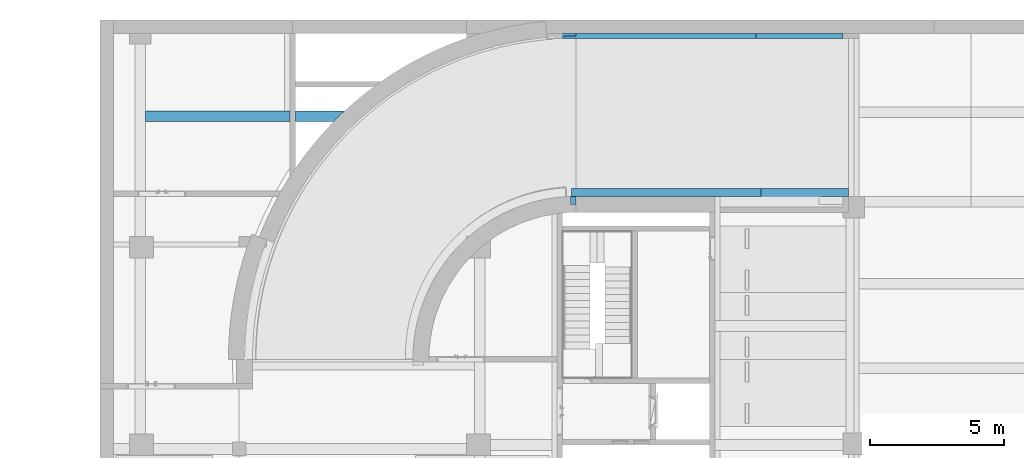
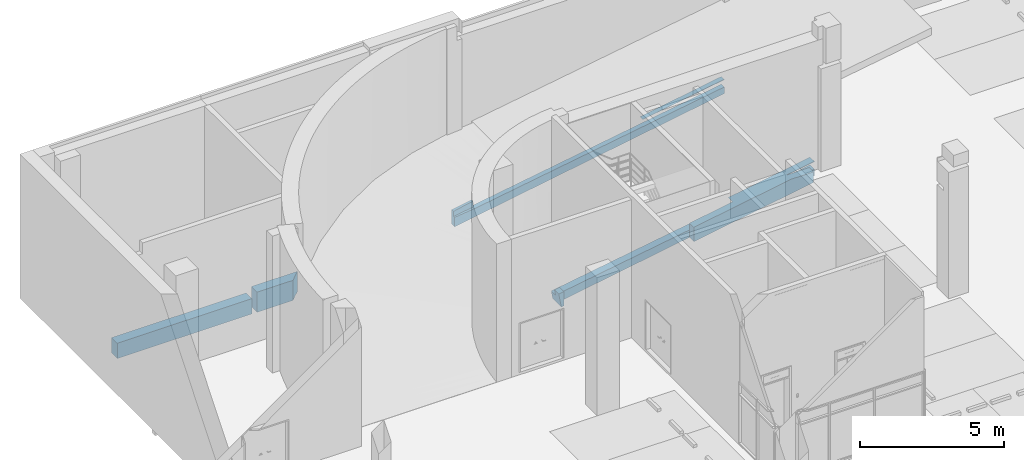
# One storey, part 21 of 29: 3 beams.
"""IFC2X3 building model written with IfcOpenShell, lengths in millimetres."""

import ifcopenshell
import ifcopenshell.guid

model = None  # the IFC model being written
_history = None  # IfcOwnerHistory: only IFC2X3 demands one
_inside = {}  # id of a spatial element -> (the spatial element, [elements in it])
_under = {}  # id of a project, library or spatial element -> (it, [spatial elements below it])
_declared = {}  # id of a project -> (the project, [libraries it declares])
_typed = {}  # id of a type object -> (the type object, [elements of that type])
_made_of = {}  # id of a material, layer set ... -> (it, [elements and type objects made of it])


def new_model(schema):
    """Start an empty IFC model of exactly this schema.

    Asked for "IFC4X3", IfcOpenShell would pick the latest addendum, in which some entities
    have other attributes; the version numbers below select the first issue.
    IFC2X3 requires an IfcOwnerHistory on every rooted entity: one is made here for all.
    """
    global model, _history
    if schema == "IFC4X3":
        model = ifcopenshell.file(schema_version=(4, 3, 0, 0))
    else:
        model = ifcopenshell.file(schema=schema)
    _inside.clear()
    _under.clear()
    _declared.clear()
    _typed.clear()
    _made_of.clear()
    _history = None
    if model.schema == "IFC2X3":
        org = make("IfcOrganization", Name="unknown")
        user = make(
            "IfcPersonAndOrganization",
            ThePerson=make("IfcPerson", FamilyName="unknown"),
            TheOrganization=org,
        )
        app = make(
            "IfcApplication",
            ApplicationDeveloper=org,
            Version="unknown",
            ApplicationFullName="unknown",
            ApplicationIdentifier="unknown",
        )
        _history = make(
            "IfcOwnerHistory",
            OwningUser=user,
            OwningApplication=app,
            ChangeAction="ADDED",
            CreationDate=0,
        )
    return model


def make(cls, **values):
    """One entity of the class cls with the attributes given. An attribute that is None is left unset."""
    return model.create_entity(
        cls, **{name: value for name, value in values.items() if value is not None}
    )


def entity(cls, *values):
    """Any entity or typed value of the class cls, its attributes in the order of the schema. None: left unset."""
    e = model.create_entity(cls)
    for i, value in enumerate(values):
        if value is not None:
            e[i] = value
    return e


def rooted(cls, **values):
    """An entity with a GlobalId (a new one), such as an element, a storey or a relation."""
    return make(cls, GlobalId=ifcopenshell.guid.new(), OwnerHistory=_history, **values)


def si_unit(unit_type, name, prefix=None):
    """IfcSIUnit, for example si_unit("LENGTHUNIT", "METRE", prefix="MILLI")."""
    return make("IfcSIUnit", UnitType=unit_type, Prefix=prefix, Name=name)


def converted_unit(unit_type, name, factor, base, dimensions=None, offset=None):
    """IfcConversionBasedUnit, such as the inch: factor (a typed value) times the base unit."""
    return make(
        "IfcConversionBasedUnit"
        if offset is None
        else "IfcConversionBasedUnitWithOffset",
        ConversionOffset=offset,
        Dimensions=None
        if dimensions is None
        else entity("IfcDimensionalExponents", *dimensions),
        UnitType=unit_type,
        Name=name,
        ConversionFactor=make(
            "IfcMeasureWithUnit", ValueComponent=factor, UnitComponent=base
        ),
    )


def derived_unit(unit_type, elements):
    """IfcDerivedUnit: a product of units, each with its exponent."""
    return make(
        "IfcDerivedUnit",
        Elements=[
            make("IfcDerivedUnitElement", Unit=unit, Exponent=power)
            for unit, power in elements
        ],
        UnitType=unit_type,
    )


def assignment(units):
    """IfcUnitAssignment: the units of a project."""
    return None if units is None else make("IfcUnitAssignment", Units=units)


def point(xyz):
    """IfcCartesianPoint."""
    return None if xyz is None else make("IfcCartesianPoint", Coordinates=xyz)


def direction(xyz):
    """IfcDirection."""
    return None if xyz is None else make("IfcDirection", DirectionRatios=xyz)


def frame(location, z_axis=None, x_axis=None):
    """IfcAxis2Placement3D, a coordinate frame: its origin and axes. An axis left out is left unset."""
    return make(
        "IfcAxis2Placement3D",
        Location=point(location),
        Axis=direction(z_axis),
        RefDirection=direction(x_axis),
    )


def origin():
    """The frame at (0, 0, 0) with its axes left unset."""
    return frame((0.0, 0.0, 0.0))


def place(relative_to, where):
    """IfcLocalPlacement: puts the frame where relative to a parent placement (None: the world)."""
    return make(
        "IfcLocalPlacement", PlacementRelTo=relative_to, RelativePlacement=where
    )


def context(
    kind, dimensions, precision=None, world=None, true_north=None, identifier=None
):
    """IfcGeometricRepresentationContext, for example the 3D "Model" context."""
    return make(
        "IfcGeometricRepresentationContext",
        ContextIdentifier=identifier,
        ContextType=kind,
        CoordinateSpaceDimension=dimensions,
        Precision=precision,
        WorldCoordinateSystem=world,
        TrueNorth=true_north,
    )


def subcontext(parent, identifier, kind, view, scale=None):
    """IfcGeometricRepresentationSubContext, for example "Body" below "Model"."""
    return make(
        "IfcGeometricRepresentationSubContext",
        ContextIdentifier=identifier,
        ContextType=kind,
        ParentContext=parent,
        TargetScale=scale,
        TargetView=view,
    )


def project(units=None, contexts=None):
    """IfcProject with its units and contexts."""
    return rooted(
        "IfcProject",
        Name="project",
        RepresentationContexts=contexts,
        UnitsInContext=assignment(units),
    )


def spatial(cls, under=None, at=None, **own):
    """A site, building, storey or space (cls), placed at a placement, below another one or the project."""
    s = rooted(cls, ObjectPlacement=at, **own)
    if under is not None:
        _under.setdefault(under.id(), (under, []))[1].append(s)
    return s


def faces_of(points, faces, orient=None, outer=None):
    """IfcFace entities. A face is a list of loops; a loop is a list of indices into points, from 0.

    orient and outer hold one flag for each loop. By default every Orientation is true, the
    first loop of a face is its IfcFaceOuterBound and the others are IfcFaceBound.
    """
    made = []
    for i, loops in enumerate(faces):
        bounds = []
        for j, loop in enumerate(loops):
            is_outer = j == 0 if outer is None else outer[i][j]
            bounds.append(
                make(
                    "IfcFaceOuterBound" if is_outer else "IfcFaceBound",
                    Bound=make("IfcPolyLoop", Polygon=[points[k] for k in loop]),
                    Orientation=True if orient is None else orient[i][j],
                )
            )
        made.append(make("IfcFace", Bounds=bounds))
    return made


def faceted_brep(points, faces, orient=None, outer=None, voids=None):
    """IfcFacetedBrep: a solid bounded by flat faces; with voids (closed shells), ...WithVoids."""
    shared = [point(p) for p in points]
    hull = make("IfcClosedShell", CfsFaces=faces_of(shared, faces, orient, outer))
    if voids is None:
        return make("IfcFacetedBrep", Outer=hull)
    return make(
        "IfcFacetedBrepWithVoids",
        Outer=hull,
        Voids=[
            make(cls, CfsFaces=faces_of(shared, fs, o, b)) for cls, fs, o, b in voids
        ],
    )


def shape(context_of_items, identifier, shape_type, items):
    """IfcShapeRepresentation: the items that make up one representation, for example the "Body"."""
    return make(
        "IfcShapeRepresentation",
        ContextOfItems=context_of_items,
        RepresentationIdentifier=identifier,
        RepresentationType=shape_type,
        Items=items,
    )


def source(mapping_origin, context_of_items, identifier, shape_type, items):
    """IfcRepresentationMap: a shape defined once, which mapped items show again and again."""
    return make(
        "IfcRepresentationMap",
        MappingOrigin=mapping_origin,
        MappedRepresentation=shape(context_of_items, identifier, shape_type, items),
    )


def transform(
    local_origin,
    x_axis=None,
    y_axis=None,
    z_axis=None,
    scale=None,
    scale2=None,
    scale3=None,
    uniform=True,
):
    """IfcCartesianTransformationOperator3D, or its non-uniform kind. x_axis, y_axis, z_axis: its Axis1, 2, 3."""
    if uniform:
        return make(
            "IfcCartesianTransformationOperator3D",
            Axis1=direction(x_axis),
            Axis2=direction(y_axis),
            LocalOrigin=point(local_origin),
            Scale=scale,
            Axis3=direction(z_axis),
        )
    return make(
        "IfcCartesianTransformationOperator3DnonUniform",
        Axis1=direction(x_axis),
        Axis2=direction(y_axis),
        LocalOrigin=point(local_origin),
        Scale=scale,
        Axis3=direction(z_axis),
        Scale2=scale2,
        Scale3=scale3,
    )


def mapped(mapping_source, mapping_target):
    """IfcMappedItem: shows the shape of a source again, moved by a transform."""
    return make(
        "IfcMappedItem", MappingSource=mapping_source, MappingTarget=mapping_target
    )


def material(Name=None, Category=None):
    """IfcMaterial."""
    return make("IfcMaterial", Name=Name, Category=Category)


def material_list(materials):
    """IfcMaterialList."""
    return make("IfcMaterialList", Materials=materials)


def made_of(thing, what):
    """Note that an element or type object is made of a material, layer set ...; save() writes the relation."""
    if what is not None:
        _made_of.setdefault(what.id(), (what, []))[1].append(thing)
    return thing


def type_object(cls, material=None, **own):
    """A type object (cls), such as IfcWallType, which elements share."""
    return made_of(rooted(cls, **own), material)


def type_shapes(of_type, sources):
    """Give a type object the sources (RepresentationMaps) that its elements show as mapped items."""
    of_type.RepresentationMaps = sources


def element(
    cls,
    number,
    at=None,
    inside=None,
    cuts=None,
    type_object=None,
    material=None,
    context=None,
    identifier="Body",
    shape_type=None,
    held_by="IfcProductDefinitionShape",
    body=None,
    shapes=None,
    **own,
):
    """One element of the class cls, such as IfcWall. Its Tag is "e" and its number.

    at: its placement. inside: the storey or other place that contains it. cuts: it is an
    opening in that element (IfcRelVoidsElement). A single representation is given by context,
    identifier, shape_type and body (its items); several are given by shapes. held_by: the class
    of the entity that holds the representations. save() writes the other relations.
    """
    e = rooted(cls, Tag="e%d" % number, ObjectPlacement=at, **own)
    if body is not None:
        shapes = [shape(context, identifier, shape_type, body)]
    if shapes is not None:
        e.Representation = make(held_by, Representations=shapes)
    if inside is not None:
        _inside.setdefault(inside.id(), (inside, []))[1].append(e)
    if cuts is not None:
        rooted(
            "IfcRelVoidsElement", RelatingBuildingElement=cuts, RelatedOpeningElement=e
        )
    if type_object is not None:
        _typed.setdefault(type_object.id(), (type_object, []))[1].append(e)
    return made_of(e, material)


def aggregate(whole, parts):
    """IfcRelAggregates: a whole, such as a stair, and the parts it consists of."""
    return rooted("IfcRelAggregates", RelatingObject=whole, RelatedObjects=parts)


def save(model, path):
    """Write the relations noted so far, then the file.

    IfcRelAggregates (storeys below a building ...), IfcRelContainedInSpatialStructure (elements
    in a storey), IfcRelDefinesByType, IfcRelAssociatesMaterial and IfcRelDeclares: one each for
    every whole, place, type object, material and project.
    """
    for whole, parts in _under.values():
        aggregate(whole, parts)
    for where, things in _inside.values():
        rooted(
            "IfcRelContainedInSpatialStructure",
            RelatedElements=things,
            RelatingStructure=where,
        )
    for kind, things in _typed.values():
        rooted("IfcRelDefinesByType", RelatedObjects=things, RelatingType=kind)
    for what, things in _made_of.values():
        rooted("IfcRelAssociatesMaterial", RelatedObjects=things, RelatingMaterial=what)
    for by, libraries in _declared.values():
        rooted("IfcRelDeclares", RelatingContext=by, RelatedDefinitions=libraries)
    model.write(path)


model = new_model("IFC2X3")

# Units and contexts
model_context = context("Model", 3, precision=0.01, world=origin(), true_north=direction((6.123031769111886e-17, 1.0)))
body_context = subcontext(model_context, "Body", "Model", "MODEL_VIEW")
ifc_project = project(units=[si_unit("LENGTHUNIT", "METRE", prefix="MILLI"), si_unit("AREAUNIT", "SQUARE_METRE"), si_unit("VOLUMEUNIT", "CUBIC_METRE"), converted_unit("PLANEANGLEUNIT", "DEGREE", entity("IfcRatioMeasure", 0.017453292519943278), si_unit("PLANEANGLEUNIT", "RADIAN"), dimensions=[0, 0, 0, 0, 0, 0, 0]), si_unit("MASSUNIT", "GRAM", prefix="KILO"), derived_unit("MASSDENSITYUNIT", [(si_unit("MASSUNIT", "GRAM", prefix="KILO"), 1), (si_unit("LENGTHUNIT", "METRE"), -3)]), derived_unit("MOMENTOFINERTIAUNIT", [(si_unit("LENGTHUNIT", "METRE"), 4)]), si_unit("TIMEUNIT", "SECOND"), si_unit("FREQUENCYUNIT", "HERTZ"), si_unit("THERMODYNAMICTEMPERATUREUNIT", "DEGREE_CELSIUS"), derived_unit("THERMALTRANSMITTANCEUNIT", [(si_unit("MASSUNIT", "GRAM", prefix="KILO"), 1), (si_unit("THERMODYNAMICTEMPERATUREUNIT", "KELVIN"), -1), (si_unit("TIMEUNIT", "SECOND"), -3)]), derived_unit("VOLUMETRICFLOWRATEUNIT", [(si_unit("LENGTHUNIT", "METRE"), 3), (si_unit("TIMEUNIT", "SECOND"), -1)]), derived_unit("MASSFLOWRATEUNIT", [(si_unit("MASSUNIT", "GRAM", prefix="KILO"), 1), (si_unit("TIMEUNIT", "SECOND"), -1)]), derived_unit("ROTATIONALFREQUENCYUNIT", [(si_unit("TIMEUNIT", "SECOND"), -1)]), si_unit("ELECTRICCURRENTUNIT", "AMPERE"), si_unit("ELECTRICVOLTAGEUNIT", "VOLT"), si_unit("POWERUNIT", "WATT"), si_unit("FORCEUNIT", "NEWTON", prefix="KILO"), si_unit("ILLUMINANCEUNIT", "LUX"), si_unit("LUMINOUSFLUXUNIT", "LUMEN"), si_unit("LUMINOUSINTENSITYUNIT", "CANDELA"), derived_unit("USERDEFINED", [(si_unit("MASSUNIT", "GRAM", prefix="KILO"), -1), (si_unit("LENGTHUNIT", "METRE"), -2), (si_unit("TIMEUNIT", "SECOND"), 3), (si_unit("LUMINOUSFLUXUNIT", "LUMEN"), 1)]), derived_unit("SOUNDPOWERUNIT", [(si_unit("MASSUNIT", "GRAM", prefix="KILO"), 1), (si_unit("LENGTHUNIT", "METRE"), 2), (si_unit("TIMEUNIT", "SECOND"), -3)]), derived_unit("SOUNDPRESSUREUNIT", [(si_unit("MASSUNIT", "GRAM", prefix="KILO"), 1), (si_unit("LENGTHUNIT", "METRE"), -1), (si_unit("TIMEUNIT", "SECOND"), -2)]), derived_unit("LINEARVELOCITYUNIT", [(si_unit("LENGTHUNIT", "METRE"), 1), (si_unit("TIMEUNIT", "SECOND"), -1)]), si_unit("PRESSUREUNIT", "PASCAL"), derived_unit("USERDEFINED", [(si_unit("LENGTHUNIT", "METRE"), -2), (si_unit("MASSUNIT", "GRAM", prefix="KILO"), 1), (si_unit("TIMEUNIT", "SECOND"), -2)]), derived_unit("LINEARFORCEUNIT", [(si_unit("MASSUNIT", "GRAM", prefix="KILO"), 1), (si_unit("LENGTHUNIT", "METRE"), 1), (si_unit("TIMEUNIT", "SECOND"), -2), (si_unit("LENGTHUNIT", "METRE"), -1)]), derived_unit("PLANARFORCEUNIT", [(si_unit("MASSUNIT", "GRAM", prefix="KILO"), 1), (si_unit("LENGTHUNIT", "METRE"), 1), (si_unit("TIMEUNIT", "SECOND"), -2), (si_unit("LENGTHUNIT", "METRE"), -2)])], contexts=[model_context])

# Site, building, storey
site_placement = place(None, frame((-14167.972527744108, -657.2125860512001, 0.0)))
site = spatial("IfcSite", under=ifc_project, at=site_placement, Name="Default", CompositionType="ELEMENT")
building_placement = place(site_placement, origin())
building = spatial("IfcBuilding", under=site, at=building_placement, Name="Sample Building", CompositionType="ELEMENT")
storey_placement = place(building_placement, frame((0.0, 0.0, -6100.0)))
storey = spatial("IfcBuildingStorey", under=building, at=storey_placement, Name="지하1층", CompositionType="ELEMENT", Elevation=-6099.999999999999)

# Beams
ifc_material = material(Name="KBIMS-콘크리트")
ifc_material_list_1 = material_list([ifc_material, ifc_material])
ifc_material_list_2 = material_list([ifc_material, ifc_material])
beam_type_1 = type_object("IfcBeamType", Name="BM111-철근콘크리트구조 보:BM110-철근 콘크리트구조 보_400 x 850_B1-1B1", PredefinedType="BEAM", material=ifc_material_list_2)
shared_shape_1 = source(origin(), body_context, "Body", "Brep", [
    faceted_brep([(5600.017385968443, 401.5952722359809, 850.0), (5600.017385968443, 1.5952722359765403, 850.0), (7038.69806492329, 1.5952722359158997, 850.0), (7241.919150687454, 203.91524411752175, 850.0), (7449.656454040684, 401.5952722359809, 850.0), (7449.656454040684, 401.5952722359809, 0.0), (5600.017385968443, 401.5952722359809, 0.0), (7241.919150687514, 203.91524411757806, 0.0), (7038.698064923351, 1.5952722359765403, 0.0), (5600.017385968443, 1.5952722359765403, 0.0)], [[[0, 1, 2, 3, 4]], [[0, 4, 5, 6]], [[6, 5, 7, 8, 9]], [[9, 8, 2, 1]], [[0, 6, 9, 1]], [[3, 7, 5, 4]], [[2, 8, 7, 3]]]),
    faceted_brep([(0.0, 401.5952722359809, 0.0), (0.0, 1.5952722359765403, 0.0), (0.0, 1.5952722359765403, 650.0), (0.0, 401.5952722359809, 650.0), (5400.017385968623, 401.5952722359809, 650.0), (5200.000036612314, 401.5952722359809, 650.0), (5400.017385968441, 1.5952722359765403, 650.0), (5400.017385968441, 401.5952722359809, 0.0), (5400.017385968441, 401.5952722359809, 250.0), (5400.017385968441, 1.5952722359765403, 0.0)], [[[0, 1, 2, 3]], [[4, 5, 3, 2, 6]], [[7, 8, 4, 6, 9]], [[0, 3, 5, 4, 8, 7]], [[1, 0, 7, 9]], [[2, 1, 9, 6]]]),
])
type_shapes(beam_type_1, [shared_shape_1])
beam_1_placement = place(storey_placement, frame((14667.955105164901, 32054.071517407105, -850.0)))
element("IfcBeam", 1, at=beam_1_placement, inside=storey, type_object=beam_type_1, material=ifc_material_list_1, Name="BM111-철근콘크리트구조 보:BM110-철근 콘크리트구조 보_400 x 850_B1-1B1", ObjectType="BM111-철근콘크리트구조 보:BM110-철근 콘크리트구조 보_400 x 850_B1-1B1", context=body_context, shape_type="MappedRepresentation", body=[
    mapped(shared_shape_1, transform((0.0, 0.0, 0.0), scale=1.0)),
])
ifc_material_list_3 = material_list([ifc_material, ifc_material])
beam_type_2 = type_object("IfcBeamType", Name="BM111-철근콘크리트구조 보:BM110-철근 콘크리트구조 보_600 x 600_RAWG1", PredefinedType="BEAM", material=ifc_material_list_3)
beam_2_placement = place(storey_placement, frame((30558.669229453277, 28957.212617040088, -2393.422886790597), z_axis=(-0.16982384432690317, 0.0, 0.9854744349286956), x_axis=(0.9854744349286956, 0.0, 0.16982384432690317)))
element("IfcBeam", 2, at=beam_2_placement, inside=storey, type_object=beam_type_2, material=ifc_material, Name="BM111-철근콘크리트구조 보:BM110-철근 콘크리트구조 보_600 x 600_RAWG1", ObjectType="BM111-철근콘크리트구조 보:BM110-철근 콘크리트구조 보_600 x 600_RAWG1", context=body_context, shape_type="Brep", body=[
    faceted_brep([(101.98633422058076, 373.6380230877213, 327.5213764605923), (101.98633422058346, 449.09195700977, 327.96850760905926), (101.98633422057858, 524.545950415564, 328.4054737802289), (101.98633422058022, 600.0, 328.83261766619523), (101.9863342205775, 600.0, -17.574998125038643), (101.98633422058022, 0.0, -17.574998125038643), (101.98633422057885, 0.0, 582.4250018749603), (101.9863342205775, 296.8615469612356, 582.4250018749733), (101.98633422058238, 297.5614099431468, 454.75128621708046), (101.98633422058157, 298.1841579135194, 327.06372155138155), (9536.104565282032, 299.9996909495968, 582.4250018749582), (10663.090807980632, 300.0, 582.4250018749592), (10663.090807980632, 600.0, 582.4250018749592), (7334.513931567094, 600.0, 582.4250018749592), (7334.513931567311, 299.99969094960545, 582.4250018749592), (5792.34040607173, 299.99969094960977, 582.4250018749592), (5708.609065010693, 299.99969094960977, 582.4250018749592), (5589.402139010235, 299.9996909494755, 582.4250018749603), (5589.402139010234, 0.0, 582.4250018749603), (5708.609065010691, 0.0, 582.4250018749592), (5792.340406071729, 0.0, 582.4250018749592), (9536.104565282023, 0.0, 582.4250018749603), (312.7558702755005, 0.0, 582.4250018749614), (312.7558702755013, 299.9996909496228, 582.4250018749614), (312.3378693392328, 299.9996909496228, 582.4250018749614), (312.3378693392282, 300.3962877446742, 582.4250018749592), (207.14687392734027, 299.5097125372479, 582.4250018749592), (10658.951957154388, 600.0, 558.407575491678), (10607.316795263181, 600.0, 258.77278516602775), (10559.694613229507, 600.0, -17.574998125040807), (158.02788445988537, 600.0, 331.6788400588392), (214.06831709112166, 600.0, 334.52743324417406), (270.10942933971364, 600.0, 337.37668011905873), (269.43428862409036, 600.0, 333.4588915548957), (10559.694613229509, 300.0, -17.574998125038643), (10356.738741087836, 300.0, -17.57499812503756), (10356.738741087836, 0.0, -17.57499812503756), (9190.361956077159, 0.0, -17.574998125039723), (5486.00594425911, 0.0, -17.574998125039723), (5486.0059442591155, 299.9996909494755, -17.574998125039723), (209.3596755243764, 299.9996909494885, -17.574998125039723), (209.35967552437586, 0.0, -17.574998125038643), (10433.485772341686, 0.0, 427.78199845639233), (10404.613284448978, 299.9996909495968, 260.237218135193), (10433.485772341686, 300.0, 427.78199845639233), (9632.44113725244, 300.0, 565.8236102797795), (10658.951957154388, 300.0, 558.407575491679), (10607.316795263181, 300.0, 258.77278516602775), (5539.936900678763, 299.9996909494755, 295.3821075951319), (5516.419353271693, 299.9996909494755, 158.91162646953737), (269.85176980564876, 299.9996909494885, 333.4558754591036), (270.1089624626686, 300.3962877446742, 337.3739708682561), (186.03501029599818, 299.8409222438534, 332.2211848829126), (270.10931672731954, 525.099071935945, 337.37602663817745), (185.93959016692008, 459.65402931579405, 332.69501941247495), (270.1090833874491, 375.297215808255, 337.37467258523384), (270.10920144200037, 450.1981438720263, 337.375357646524), (269.4342886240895, 299.9996909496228, 333.4588915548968)], [[[0, 1, 2, 3, 4, 5, 6, 7, 8, 9]], [[10, 11, 12, 13, 14, 15, 16, 17, 18, 19, 20, 21]], [[22, 23, 24, 25, 26, 7, 6]], [[27, 13, 12]], [[28, 29, 4, 3, 30, 31, 32, 33]], [[34, 35, 36, 37, 38, 39, 40, 41, 5, 4, 29]], [[21, 20, 19, 18, 38, 37, 36, 42]], [[6, 5, 41, 22]], [[43, 44, 42, 36, 35]], [[45, 46, 11]], [[11, 10, 45]], [[47, 34, 29, 28]], [[46, 27, 12, 11]], [[45, 10, 21, 42, 44]], [[48, 49, 39, 38, 18, 17]], [[39, 49, 48, 50, 40]], [[26, 25, 51]], [[26, 51, 52]], [[8, 26, 52]], [[7, 26, 8]], [[8, 52, 9]], [[32, 31, 53]], [[31, 54, 53]], [[54, 55, 56]], [[51, 55, 52]], [[54, 31, 30]], [[30, 3, 2]], [[2, 1, 54]], [[54, 0, 52]], [[54, 52, 55]], [[0, 9, 52]], [[54, 1, 0]], [[54, 56, 53]], [[54, 30, 2]], [[43, 47, 28, 33, 57, 50, 48]], [[45, 14, 13, 27, 46]], [[24, 23, 50, 57]], [[48, 17, 16, 15, 14, 43]], [[55, 51, 25, 24, 57, 33, 32, 53, 56]], [[34, 47, 43]], [[43, 35, 34]], [[45, 44, 43]], [[43, 14, 45]], [[50, 23, 22, 41, 40]]]),
])
ifc_material_list_4 = material_list([ifc_material, ifc_material])
ifc_material_list_5 = material_list([ifc_material, ifc_material])
beam_type_3 = type_object("IfcBeamType", Name="BM111-철근콘크리트구조 보:BM110-철근 콘크리트구조 보_600 x 600_RAWG1", PredefinedType="BEAM", material=ifc_material_list_5)
shared_shape_2 = source(origin(), body_context, "Body", "Brep", [
    faceted_brep([(7541.355557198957, 1.5952722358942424, 1905.236177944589), (10801.604001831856, 1.5952722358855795, 2465.822658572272), (10801.604001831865, 201.56027959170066, 2465.8226585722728), (7541.35555719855, 201.59496318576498, 1905.2361779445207), (10801.604001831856, 1.5952722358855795, 2442.8419876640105), (10801.604001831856, 201.56027959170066, 2442.8419876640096), (7541.355557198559, 201.56027959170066, 1905.236177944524), (10801.604001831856, 201.59496318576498, 2442.8419876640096)], [[[0, 1, 2, 3]], [[4, 1, 0]], [[1, 4, 5, 2]], [[0, 6, 7, 4]], [[6, 2, 5]]]),
    faceted_brep([(10801.604001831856, 201.56027959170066, 1857.0176436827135), (10801.604001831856, 1.5952722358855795, 1857.0176436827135), (1.5952722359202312, 1.5952722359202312, 0.0), (1.5952722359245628, 201.56027959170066, 0.0), (1.5952722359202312, 201.56027959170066, 608.8050148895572), (1.5952722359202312, 1.5952722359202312, 397.44300344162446), (1.5952722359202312, 38.35662401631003, 397.73499618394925), (1.5952722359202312, 75.1179897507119, 398.0252268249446), (1.5952722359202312, 75.1179897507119, 608.8050148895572), (267.89023264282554, 89.81778927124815, 429.9353908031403), (267.917181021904, 89.81897909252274, 654.5979856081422), (534.4701070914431, 98.64543893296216, 461.84562175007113), (801.2094219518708, 101.59495617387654, 493.75574285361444), (801.2094219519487, 101.59495617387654, 746.29542080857), (534.4984270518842, 98.64606431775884, 700.4355483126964), (467.1503028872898, 50.09206436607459, 453.63489914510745), (801.2094219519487, 51.59511420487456, 493.75561884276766), (445.8312506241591, 1.5952722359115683, 450.9040331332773), (356.9861779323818, 1.5952722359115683, 440.19881352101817), (534.6760117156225, 1.5952722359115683, 461.6134885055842), (623.52075309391, 1.5952722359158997, 472.3260268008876), (801.2094219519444, 1.5952722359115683, 493.755493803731), (712.3650813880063, 1.5952722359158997, 483.0404093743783), (179.29338839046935, 1.5952722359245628, 418.805608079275), (90.44513020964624, 1.5952722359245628, 408.1199115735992), (268.1403143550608, 1.5952722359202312, 429.4989561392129), (801.2094219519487, 1.5952722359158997, 489.7537075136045), (10801.604001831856, 1.5952722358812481, 2138.7906802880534), (10801.604001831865, 201.56027959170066, 2138.7906802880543), (801.2094219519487, 201.59496318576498, 489.7537075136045), (801.2094219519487, 201.59496318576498, 746.2954208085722)], [[[0, 1, 2, 3]], [[4, 3, 2, 5, 6, 7, 8]], [[9, 10, 8]], [[8, 7, 9]], [[9, 11, 10]], [[12, 13, 14]], [[14, 11, 12]], [[10, 11, 14]], [[9, 15, 11]], [[16, 12, 11]], [[15, 16, 11]], [[17, 15, 18]], [[15, 17, 19]], [[19, 20, 15]], [[21, 16, 22]], [[22, 16, 20]], [[15, 20, 16]], [[9, 7, 6]], [[6, 23, 15]], [[24, 6, 5]], [[15, 25, 18]], [[15, 23, 25]], [[6, 24, 23]], [[6, 15, 9]], [[26, 27, 28, 29]], [[12, 16, 21, 26, 29, 30, 13]], [[2, 1, 27, 26, 21, 22, 20, 19, 17, 18, 25, 23, 24, 5]], [[4, 30, 29, 3]], [[0, 3, 29]], [[0, 29, 28]], [[30, 4, 8, 10, 14, 13]], [[0, 28, 27, 1]]]),
])
type_shapes(beam_type_3, [shared_shape_2])
beam_3_placement = place(storey_placement, frame((29966.35113994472, 35155.61734480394, -2508.8050148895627)))
element("IfcBeam", 3, at=beam_3_placement, inside=storey, type_object=beam_type_3, material=ifc_material_list_4, Name="BM111-철근콘크리트구조 보:BM110-철근 콘크리트구조 보_600 x 600_RAWG1", ObjectType="BM111-철근콘크리트구조 보:BM110-철근 콘크리트구조 보_600 x 600_RAWG1", context=body_context, shape_type="MappedRepresentation", body=[
    mapped(shared_shape_2, transform((0.0, 0.0, 0.0), scale=1.0)),
])

save(model, "model.ifc")
